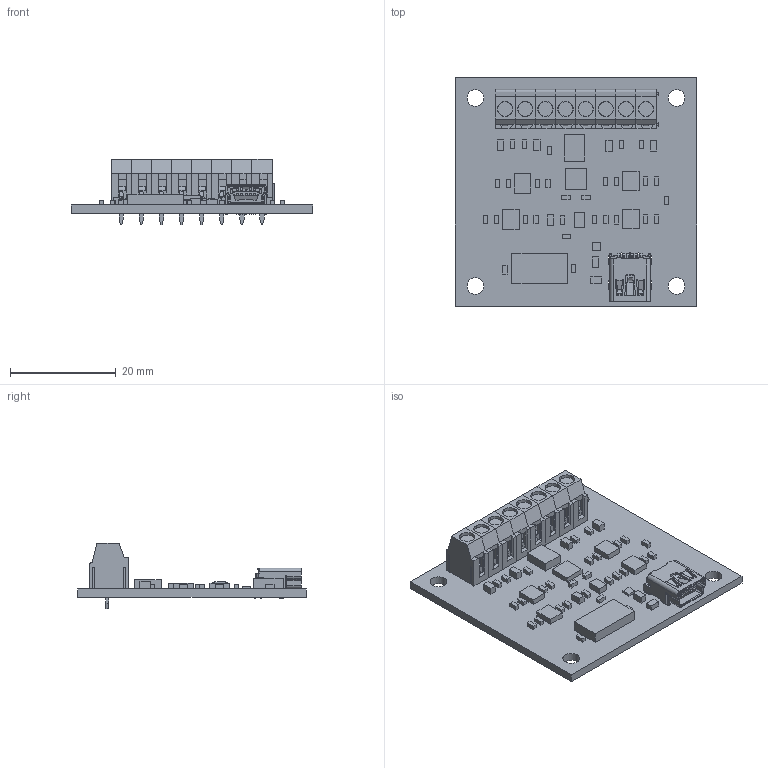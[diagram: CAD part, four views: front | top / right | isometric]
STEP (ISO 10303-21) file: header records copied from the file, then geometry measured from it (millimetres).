
FILE_DESCRIPTION(('Open CASCADE Model'),'2;1');
FILE_NAME('Open CASCADE Shape Model','2010-10-27T12:35:30',('Author'),( 'Open CASCADE'),'Open CASCADE STEP processor 6.2','Open CASCADE 6.2' ,'Unknown');
FILE_SCHEMA(('AUTOMOTIVE_DESIGN { 1 0 10303 214 1 1 1 1 }'));
Length unit declared in the file: millimetre
Products named in the file (78): PCB; Board; R16; 489472832; Extruded; C20; 489473600; C19; 489473088; R3; J1; 20020327-d04_asm; 20020327-D-LEM; 20020327-D-REM; C1; 603622032; C2; C4; C5; C6; C12; C8; C16; C10; 489472960; C13; C7; C15; C11; C17; C3; C9; C14; J2; R6; R1; R12; R2; R8; R15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
Assembly tree (115 placements, depth 4):
  PCB
    Board
    R16
      489472832
        Extruded
    C20
      489473600
        Extruded
    C19
      489473088
        Extruded
    R3
      489473088
        Extruded
    J1
      20020327-d04_asm
        20020327-D-LEM
        20020327-D-REM  x4
    C1
      603622032
        Extruded
    C2
      603622032
        Extruded
    C4
      603622032
        Extruded
    C5
      603622032
        Extruded
    C6
      489473088
        Extruded
    C12
      489473088
        Extruded
    C8
      489473088
        Extruded
    C16
      489473088
        Extruded
    C10
      489472960
        Extruded
    C13
      603622032
        Extruded
    C7
      489473088
        Extruded
    C15
      489473088
        Extruded
    C11
      489473088
        Extruded
    C17
      489473088
        Extruded
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Bounding box: 45.72 x 43.18 x 12.31 mm (x, y, z)
Volume: 5031.2 mm3; surface area: 8425.4 mm2
Topology: 67 solids, 67 shells, 1657 faces, 4312 edges, 2800 vertices
Faces by surface type: plane 1390, cylinder 225, cone 24, bspline 18
Full cylindrical faces by diameter (mm): 0.381 x4, 0.8 x5, 1.321 x8, 3.175 x4
Entity records: 49457 total; most frequent: CARTESIAN_POINT 12220, DIRECTION 6574, LINE 4471, VECTOR 4471, ORIENTED_EDGE 3594, PCURVE 3594, DEFINITIONAL_REPRESENTATION 3594, EDGE_CURVE 1797
